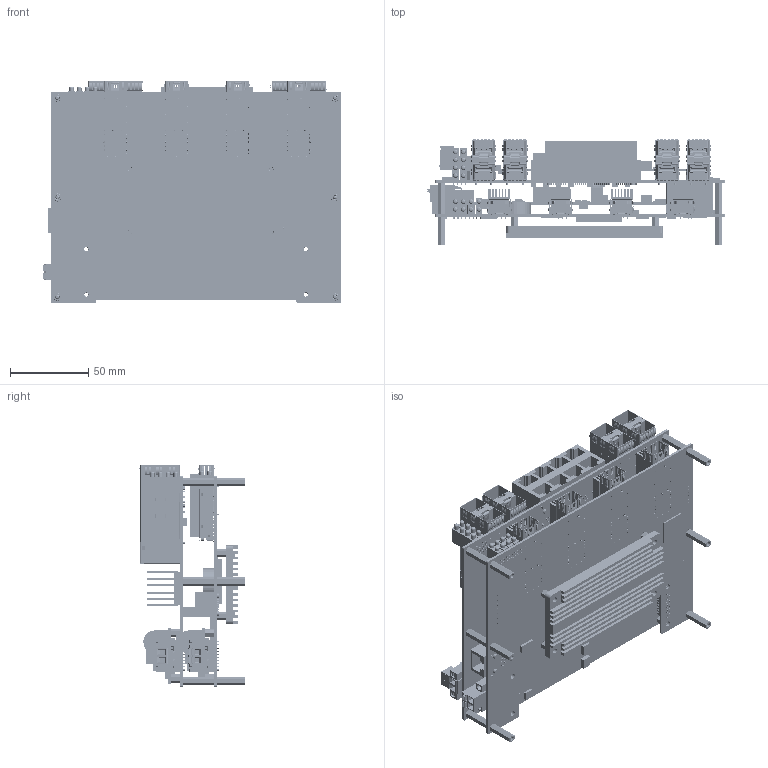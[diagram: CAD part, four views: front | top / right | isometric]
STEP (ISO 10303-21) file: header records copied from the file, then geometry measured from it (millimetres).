
FILE_DESCRIPTION (( 'STEP AP203' ), '1' );
FILE_NAME ('MES8112GX-4XGF-8GC-3D-240701.STEP', '2024-08-29T06:51:43', ( 'pc' ), ( 'Microsoft' ), 'SwSTEP 2.0', 'SolidWorks 2014', '' );
FILE_SCHEMA (( 'CONFIG_CONTROL_DESIGN' ));
Products named in the file (1): MES8112GX-4XGF-8GC-3D-240701
Bounding box: 190.2 x 67.6 x 141.94 mm (x, y, z)
Volume: 268844.3 mm3; surface area: 259572 mm2
Topology: 2 solids, 14 shells, 16959 faces, 47787 edges, 31278 vertices
Faces by surface type: plane 10673, cylinder 5988, cone 138, bspline 123, torus 37
Entity records: 581613 total; most frequent: CARTESIAN_POINT 139163, ORIENTED_EDGE 95440, DIRECTION 87459, EDGE_CURVE 47720, VECTOR 32599, LINE 32599, VERTEX_POINT 31278, AXIS2_PLACEMENT_3D 27430
